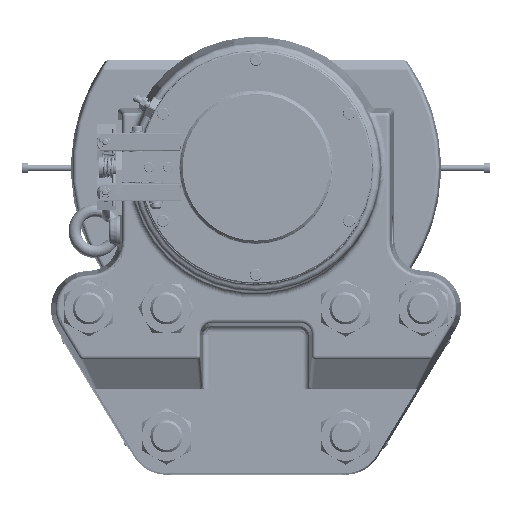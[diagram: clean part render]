
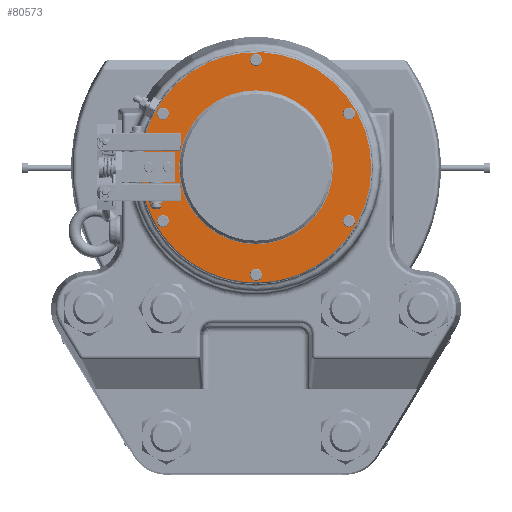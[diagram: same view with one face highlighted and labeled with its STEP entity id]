
A CAD part, top view. The second image highlights one B-rep face of the part: STEP entity #80573.
In plain terms, the highlighted planar face has unit normal (0, 0, 1).
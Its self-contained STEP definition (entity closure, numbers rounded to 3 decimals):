
#13478=CARTESIAN_POINT('',(-200.,-59.,348.8));
#13479=DIRECTION('',(0.,0.,-1.));
#13480=DIRECTION('',(-1.,0.,0.));
#13481=AXIS2_PLACEMENT_3D('',#13478,#13479,#13480);
#13486=CARTESIAN_POINT('',(-200.,-59.,348.8));
#13487=DIRECTION('',(0.,0.,-1.));
#13488=DIRECTION('',(1.,0.,0.));
#13489=AXIS2_PLACEMENT_3D('',#13486,#13487,#13488);
#13494=CARTESIAN_POINT('',(-200.,-101.,348.8));
#13495=DIRECTION('',(0.,0.,-1.));
#13496=DIRECTION('',(-1.,0.,0.));
#13497=AXIS2_PLACEMENT_3D('',#13494,#13495,#13496);
#13502=CARTESIAN_POINT('',(-200.,-101.,348.8));
#13503=DIRECTION('',(0.,0.,-1.));
#13504=DIRECTION('',(1.,0.,0.));
#13505=AXIS2_PLACEMENT_3D('',#13502,#13503,#13504);
#13510=CARTESIAN_POINT('',(-130.,-80.,348.8));
#13511=DIRECTION('',(0.,0.,-1.));
#13512=DIRECTION('',(1.,0.,0.));
#13513=AXIS2_PLACEMENT_3D('',#13510,#13511,#13512);
#13518=CARTESIAN_POINT('',(-130.,-80.,348.8));
#13519=DIRECTION('',(0.,0.,-1.));
#13520=DIRECTION('',(-1.,0.,0.));
#13521=AXIS2_PLACEMENT_3D('',#13518,#13519,#13520);
#13526=CARTESIAN_POINT('',(-130.,-170.,348.8));
#13527=DIRECTION('',(0.,0.,1.));
#13528=DIRECTION('',(-0.108,0.994,0.));
#13529=AXIS2_PLACEMENT_3D('',#13526,#13527,#13528);
#13534=CARTESIAN_POINT('',(-130.,-170.,348.8));
#13535=DIRECTION('',(0.,0.,1.));
#13536=DIRECTION('',(0.108,-0.994,0.));
#13537=AXIS2_PLACEMENT_3D('',#13534,#13535,#13536);
#13542=CARTESIAN_POINT('',(-207.942,-125.,348.8));
#13543=DIRECTION('',(0.,0.,1.));
#13544=DIRECTION('',(0.807,0.591,0.));
#13545=AXIS2_PLACEMENT_3D('',#13542,#13543,#13544);
#13550=CARTESIAN_POINT('',(-207.942,-125.,348.8));
#13551=DIRECTION('',(0.,0.,1.));
#13552=DIRECTION('',(-0.807,-0.591,0.));
#13553=AXIS2_PLACEMENT_3D('',#13550,#13551,#13552);
#13558=DIRECTION('',(0.,-1.,0.));
#13559=VECTOR('',#13558,25.);
#13560=CARTESIAN_POINT('',(-197.5,-67.5,348.8));
#13561=LINE('',#13560,#13559);
#13565=DIRECTION('',(1.,0.,0.));
#13566=VECTOR('',#13565,28.187);
#13567=CARTESIAN_POINT('',(-225.687,-67.5,348.8));
#13568=LINE('',#13567,#13566);
#13572=CARTESIAN_POINT('',(-130.,-80.,348.8));
#13573=DIRECTION('',(0.,0.,1.));
#13574=DIRECTION('',(1.,0.,0.));
#13575=AXIS2_PLACEMENT_3D('',#13572,#13573,#13574);
#13580=CARTESIAN_POINT('',(-130.,-80.,348.8));
#13581=DIRECTION('',(0.,0.,1.));
#13582=DIRECTION('',(-0.992,-0.13,0.));
#13583=AXIS2_PLACEMENT_3D('',#13580,#13581,#13582);
#13588=DIRECTION('',(1.,0.,0.));
#13589=VECTOR('',#13588,28.187);
#13590=CARTESIAN_POINT('',(-225.687,-92.5,348.8));
#13591=LINE('',#13590,#13589);
#13611=CARTESIAN_POINT('',(-130.,10.,348.8));
#13612=DIRECTION('',(0.,0.,1.));
#13613=DIRECTION('',(-0.108,0.994,0.));
#13614=AXIS2_PLACEMENT_3D('',#13611,#13612,#13613);
#13619=CARTESIAN_POINT('',(-130.,10.,348.8));
#13620=DIRECTION('',(0.,0.,1.));
#13621=DIRECTION('',(0.108,-0.994,0.));
#13622=AXIS2_PLACEMENT_3D('',#13619,#13620,#13621);
#13627=CARTESIAN_POINT('',(-52.058,-35.,348.8));
#13628=DIRECTION('',(0.,0.,1.));
#13629=DIRECTION('',(-0.807,-0.591,0.));
#13630=AXIS2_PLACEMENT_3D('',#13627,#13628,#13629);
#13635=CARTESIAN_POINT('',(-52.058,-35.,348.8));
#13636=DIRECTION('',(0.,0.,1.));
#13637=DIRECTION('',(0.807,0.591,0.));
#13638=AXIS2_PLACEMENT_3D('',#13635,#13636,#13637);
#29114=CARTESIAN_POINT('',(-52.058,-125.,348.8));
#29115=DIRECTION('',(0.,0.,1.));
#29116=DIRECTION('',(0.915,-0.403,0.));
#29117=AXIS2_PLACEMENT_3D('',#29114,#29115,#29116);
#29129=CARTESIAN_POINT('',(-52.058,-125.,348.8));
#29130=DIRECTION('',(0.,0.,1.));
#29131=DIRECTION('',(-0.915,0.403,0.));
#29132=AXIS2_PLACEMENT_3D('',#29129,#29130,#29131);
#29318=CARTESIAN_POINT('',(-207.942,-35.,348.8));
#29319=DIRECTION('',(0.,0.,1.));
#29320=DIRECTION('',(-0.915,0.403,0.));
#29321=AXIS2_PLACEMENT_3D('',#29318,#29319,#29320);
#29333=CARTESIAN_POINT('',(-207.942,-35.,348.8));
#29334=DIRECTION('',(0.,0.,1.));
#29335=DIRECTION('',(0.915,-0.403,0.));
#29336=AXIS2_PLACEMENT_3D('',#29333,#29334,#29335);
#63336=CARTESIAN_POINT('',(-193.,-101.,348.8));
#63337=CARTESIAN_POINT('',(-207.,-101.,348.8));
#63338=VERTEX_POINT('',#63336);
#63339=VERTEX_POINT('',#63337);
#63341=CARTESIAN_POINT('',(-65.5,-80.,348.8));
#63343=VERTEX_POINT('',#63341);
#63369=CARTESIAN_POINT('',(-33.5,-80.,348.8));
#63371=VERTEX_POINT('',#63369);
#63390=CARTESIAN_POINT('',(-207.,-59.,348.8));
#63391=CARTESIAN_POINT('',(-193.,-59.,348.8));
#63392=VERTEX_POINT('',#63390);
#63393=VERTEX_POINT('',#63391);
#63421=CARTESIAN_POINT('',(-194.5,-80.,348.8));
#63423=VERTEX_POINT('',#63421);
#68030=CARTESIAN_POINT('',(-47.483,-127.017,348.8));
#68031=CARTESIAN_POINT('',(-56.633,-122.983,348.8));
#68032=VERTEX_POINT('',#68030);
#68033=VERTEX_POINT('',#68031);
#68034=CARTESIAN_POINT('',(-212.517,-32.983,348.8));
#68035=CARTESIAN_POINT('',(-203.367,-37.017,348.8));
#68036=VERTEX_POINT('',#68034);
#68037=VERTEX_POINT('',#68035);
#68279=CARTESIAN_POINT('',(-130.541,-165.029,348.8));
#68280=CARTESIAN_POINT('',(-129.459,-174.971,348.8));
#68281=VERTEX_POINT('',#68279);
#68282=VERTEX_POINT('',#68280);
#68447=CARTESIAN_POINT('',(-203.908,-122.046,348.8));
#68448=CARTESIAN_POINT('',(-211.977,-127.954,348.8));
#68449=VERTEX_POINT('',#68447);
#68450=VERTEX_POINT('',#68448);
#68467=CARTESIAN_POINT('',(-197.5,-67.5,348.8));
#68468=CARTESIAN_POINT('',(-197.5,-92.5,348.8));
#68469=VERTEX_POINT('',#68467);
#68470=VERTEX_POINT('',#68468);
#68471=CARTESIAN_POINT('',(-225.687,-67.5,348.8));
#68472=VERTEX_POINT('',#68471);
#68473=CARTESIAN_POINT('',(-225.687,-92.5,348.8));
#68474=VERTEX_POINT('',#68473);
#68550=CARTESIAN_POINT('',(-130.541,14.971,348.8));
#68551=CARTESIAN_POINT('',(-129.459,5.029,348.8));
#68552=VERTEX_POINT('',#68550);
#68553=VERTEX_POINT('',#68551);
#68710=CARTESIAN_POINT('',(-56.092,-37.954,348.8));
#68711=CARTESIAN_POINT('',(-48.023,-32.046,348.8));
#68712=VERTEX_POINT('',#68710);
#68713=VERTEX_POINT('',#68711);
#80504=CARTESIAN_POINT('',(-130.,-176.5,348.8));
#80505=DIRECTION('',(0.,0.,-1.));
#80506=DIRECTION('',(1.,0.,0.));
#80507=AXIS2_PLACEMENT_3D('',#80504,#80505,#80506);
#80508=PLANE('',#80507);
#80510=ORIENTED_EDGE('',*,*,#80509,.F.);
#80512=ORIENTED_EDGE('',*,*,#80511,.F.);
#80513=ORIENTED_EDGE('',*,*,#80487,.F.);
#80514=ORIENTED_EDGE('',*,*,#80450,.F.);
#80516=ORIENTED_EDGE('',*,*,#80515,.T.);
#80517=EDGE_LOOP('',(#80510,#80512,#80513,#80514,#80516));
#80518=FACE_OUTER_BOUND('',#80517,.F.);
#80520=ORIENTED_EDGE('',*,*,#80519,.F.);
#80522=ORIENTED_EDGE('',*,*,#80521,.F.);
#80523=EDGE_LOOP('',(#80520,#80522));
#80524=FACE_BOUND('',#80523,.F.);
#80526=ORIENTED_EDGE('',*,*,#80525,.F.);
#80528=ORIENTED_EDGE('',*,*,#80527,.F.);
#80529=EDGE_LOOP('',(#80526,#80528));
#80530=FACE_BOUND('',#80529,.F.);
#80532=ORIENTED_EDGE('',*,*,#80531,.F.);
#80534=ORIENTED_EDGE('',*,*,#80533,.F.);
#80535=EDGE_LOOP('',(#80532,#80534));
#80536=FACE_BOUND('',#80535,.F.);
#80538=ORIENTED_EDGE('',*,*,#80537,.T.);
#80540=ORIENTED_EDGE('',*,*,#80539,.T.);
#80541=EDGE_LOOP('',(#80538,#80540));
#80542=FACE_BOUND('',#80541,.F.);
#80544=ORIENTED_EDGE('',*,*,#80543,.T.);
#80546=ORIENTED_EDGE('',*,*,#80545,.T.);
#80547=EDGE_LOOP('',(#80544,#80546));
#80548=FACE_BOUND('',#80547,.F.);
#80550=ORIENTED_EDGE('',*,*,#80549,.T.);
#80552=ORIENTED_EDGE('',*,*,#80551,.T.);
#80553=EDGE_LOOP('',(#80550,#80552));
#80554=FACE_BOUND('',#80553,.F.);
#80556=ORIENTED_EDGE('',*,*,#80555,.T.);
#80558=ORIENTED_EDGE('',*,*,#80557,.T.);
#80559=EDGE_LOOP('',(#80556,#80558));
#80560=FACE_BOUND('',#80559,.F.);
#80562=ORIENTED_EDGE('',*,*,#80561,.T.);
#80564=ORIENTED_EDGE('',*,*,#80563,.T.);
#80565=EDGE_LOOP('',(#80562,#80564));
#80566=FACE_BOUND('',#80565,.F.);
#80568=ORIENTED_EDGE('',*,*,#80567,.T.);
#80570=ORIENTED_EDGE('',*,*,#80569,.T.);
#80571=EDGE_LOOP('',(#80568,#80570));
#80572=FACE_BOUND('',#80571,.F.);
#80573=ADVANCED_FACE('',(#80518,#80524,#80530,#80536,#80542,#80548,#80554,
#80560,#80566,#80572),#80508,.F.);
#13482=CIRCLE('',#13481,7.);
#13490=CIRCLE('',#13489,7.);
#13498=CIRCLE('',#13497,7.);
#13506=CIRCLE('',#13505,7.);
#13514=CIRCLE('',#13513,64.5);
#13522=CIRCLE('',#13521,64.5);
#13530=CIRCLE('',#13529,5.);
#13538=CIRCLE('',#13537,5.);
#13546=CIRCLE('',#13545,5.);
#13554=CIRCLE('',#13553,5.);
#13576=CIRCLE('',#13575,96.5);
#13584=CIRCLE('',#13583,96.5);
#13615=CIRCLE('',#13614,5.);
#13623=CIRCLE('',#13622,5.);
#13631=CIRCLE('',#13630,5.);
#13639=CIRCLE('',#13638,5.);
#29118=CIRCLE('',#29117,5.);
#29133=CIRCLE('',#29132,5.);
#29322=CIRCLE('',#29321,5.);
#29337=CIRCLE('',#29336,5.);
#80450=EDGE_CURVE('',#68474,#63371,#13584,.T.);
#80487=EDGE_CURVE('',#63371,#68472,#13576,.T.);
#80509=EDGE_CURVE('',#68469,#68470,#13561,.T.);
#80511=EDGE_CURVE('',#68472,#68469,#13568,.T.);
#80515=EDGE_CURVE('',#68474,#68470,#13591,.T.);
#80519=EDGE_CURVE('',#63392,#63393,#13482,.T.);
#80521=EDGE_CURVE('',#63393,#63392,#13490,.T.);
#80525=EDGE_CURVE('',#63339,#63338,#13498,.T.);
#80527=EDGE_CURVE('',#63338,#63339,#13506,.T.);
#80531=EDGE_CURVE('',#63343,#63423,#13514,.T.);
#80533=EDGE_CURVE('',#63423,#63343,#13522,.T.);
#80537=EDGE_CURVE('',#68032,#68033,#29118,.T.);
#80539=EDGE_CURVE('',#68033,#68032,#29133,.T.);
#80543=EDGE_CURVE('',#68036,#68037,#29322,.T.);
#80545=EDGE_CURVE('',#68037,#68036,#29337,.T.);
#80549=EDGE_CURVE('',#68281,#68282,#13530,.T.);
#80551=EDGE_CURVE('',#68282,#68281,#13538,.T.);
#80555=EDGE_CURVE('',#68449,#68450,#13546,.T.);
#80557=EDGE_CURVE('',#68450,#68449,#13554,.T.);
#80561=EDGE_CURVE('',#68552,#68553,#13615,.T.);
#80563=EDGE_CURVE('',#68553,#68552,#13623,.T.);
#80567=EDGE_CURVE('',#68712,#68713,#13631,.T.);
#80569=EDGE_CURVE('',#68713,#68712,#13639,.T.);
